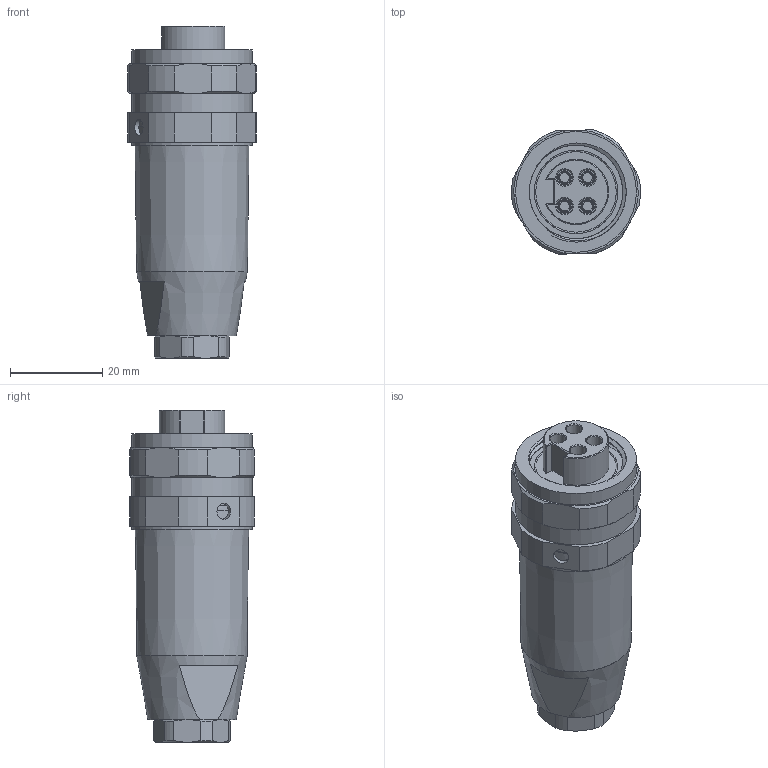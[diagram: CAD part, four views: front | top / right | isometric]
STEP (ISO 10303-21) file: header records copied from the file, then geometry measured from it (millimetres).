
FILE_DESCRIPTION(/* description */ (''),/* implementation_level */ '2;1');
FILE_NAME(/* name */ '7 8 4FS-PG9_stp.stp',/* time_stamp */ '2024-09-13T11:23:04+08:00',/* author */ (''),/* organization */ (''),/* preprocessor_version */ 'ST-DEVELOPER v16.7',/* originating_system */ 'SIEMENS PLM Software NX 12.0',/* authorisation */ '');
FILE_SCHEMA (('AP203_CONFIGURATION_CONTROLLED_3D_DESIGN_OF_MECHANICAL_PARTS_AND_ASSEMBLIES_MIM_LF { 1 0 10303 403 2 1 2}'));
Products named in the file (1): lyj72485A07qe5k
Bounding box: 27.95 x 26.94 x 72.03 mm (x, y, z)
Surface area: 15696 mm2 (no closed solid volume)
Topology: 0 solids, 1 shells, 513 faces, 1561 edges, 1022 vertices
Faces by surface type: plane 188, cylinder 159, cone 75, bspline 66, torus 20, sphere 4, revolution 1
Full cylindrical faces by diameter (mm): 2.7 x4, 3 x4, 3.4 x4, 3.5 x1, 4 x4, 8.8 x1, 9 x1, 10.2 x1, 11.3 x1, 13.2 x1, 13.86 x5, 20.26 x1, 23 x1, 23.2 x1, 24 x1, 25 x1, 26.2 x3
Entity records: 49635 total; most frequent: CARTESIAN_POINT 37261, ORIENTED_EDGE 2922, DIRECTION 1992, EDGE_CURVE 1461, VERTEX_POINT 988, AXIS2_PLACEMENT_3D 799, B_SPLINE_CURVE_WITH_KNOTS 712, EDGE_LOOP 613
